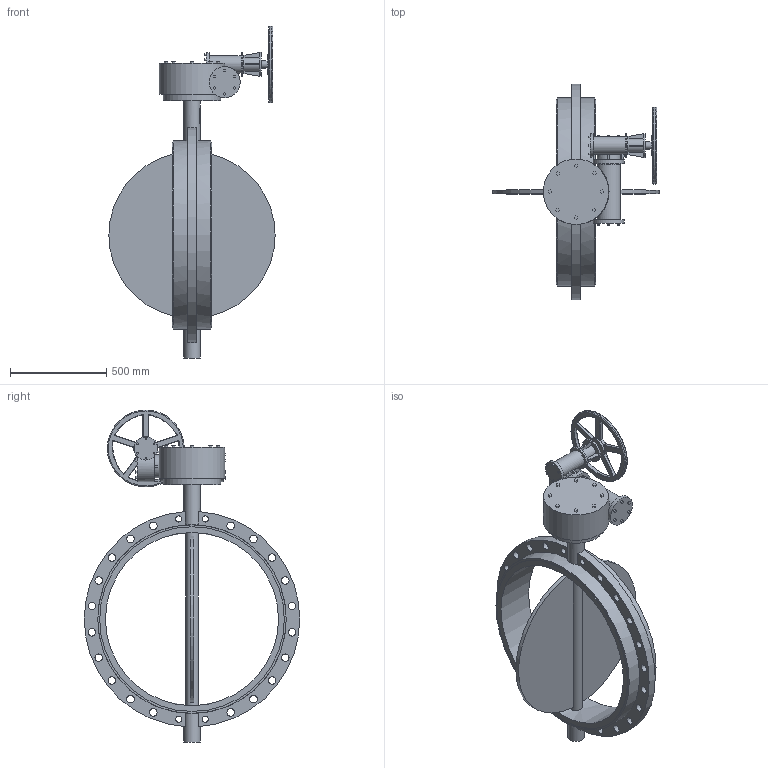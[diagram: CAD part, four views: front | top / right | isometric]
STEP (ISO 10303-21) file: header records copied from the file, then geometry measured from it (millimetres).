
FILE_DESCRIPTION(('STEP AP203'), '1');
FILE_NAME('青蜮铕 017W.YS_DN900_PN16_疱潴牝铕', '', ('UNSPECIFIED'), ('UNSPECIFIED'), 'ASCON STEP Converter 1.6', 'ASCON Math Kernel', '');
FILE_SCHEMA(('CONFIG_CONTROL_DESIGN'));
Length unit declared in the file: millimetre
Bounding box: 864.7 x 1120 x 1726 mm (x, y, z)
Volume: 73343840.4 mm3; surface area: 4215378.6 mm2
Topology: 1 solids, 1 shells, 600 faces, 1525 edges, 974 vertices
Faces by surface type: plane 372, cylinder 127, torus 78, cone 16, bspline 7
Full cylindrical faces by diameter (mm): 13.835 x8, 18 x8, 31.67 x4, 39 x20, 40 x1, 65 x1, 85 x2, 90 x1, 100 x1, 120 x2, 121 x2, 125 x1, 161 x3, 300 x1, 340 x1, 400 x1, 900 x1, 960 x2, 980 x2
Entity records: 25212 total; most frequent: CARTESIAN_POINT 5901, DIRECTION 3004, ORIENTED_EDGE 2862, EDGE_CURVE 1431, AXIS2_PLACEMENT_3D 1032, VERTEX_POINT 966, LINE 940, VECTOR 940
